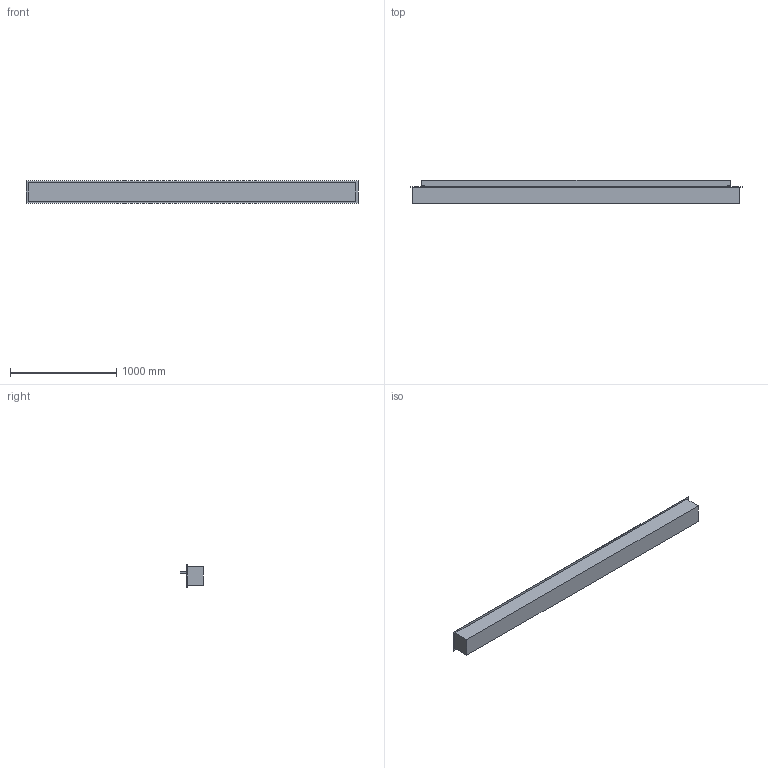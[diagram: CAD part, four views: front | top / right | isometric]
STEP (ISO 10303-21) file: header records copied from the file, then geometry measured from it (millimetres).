
FILE_DESCRIPTION (( 'STEP AP203' ), '1' );
FILE_NAME ('Denver F6 3120.STEP', '2024-03-13T09:25:04', ( '' ), ( '' ), 'SwSTEP 2.0', 'SolidWorks 2023', '' );
FILE_SCHEMA (( 'CONFIG_CONTROL_DESIGN' ));
Length unit declared in the file: millimetre
Products named in the file (1): Denver F6 3120
Bounding box: 3120 x 220 x 215 mm (x, y, z)
Volume: 87893919 mm3; surface area: 3936770.6 mm2
Topology: 8 solids, 8 shells, 68 faces, 156 edges, 104 vertices
Faces by surface type: plane 68
Entity records: 1955 total; most frequent: CARTESIAN_POINT 329, ORIENTED_EDGE 312, DIRECTION 294, LINE 156, EDGE_CURVE 156, VECTOR 156, VERTEX_POINT 104, EDGE_LOOP 74
